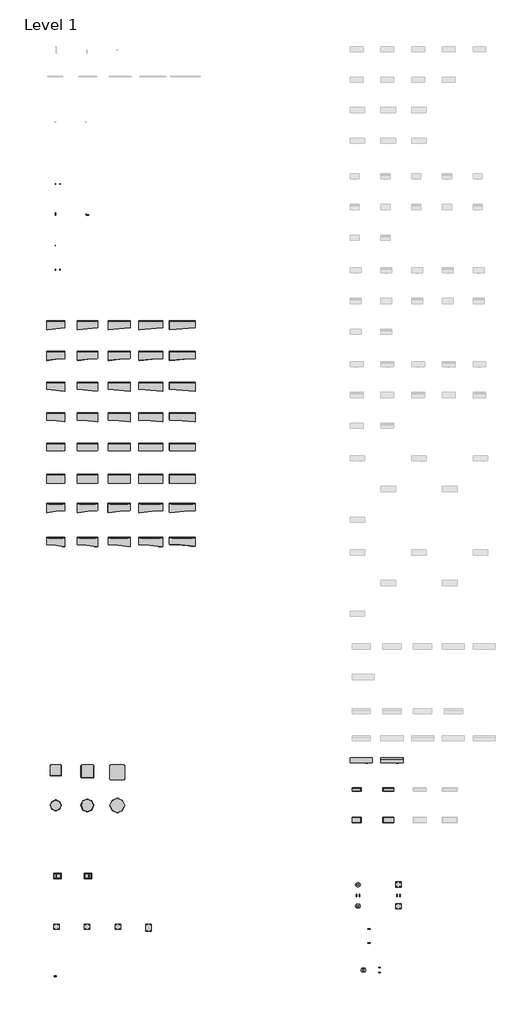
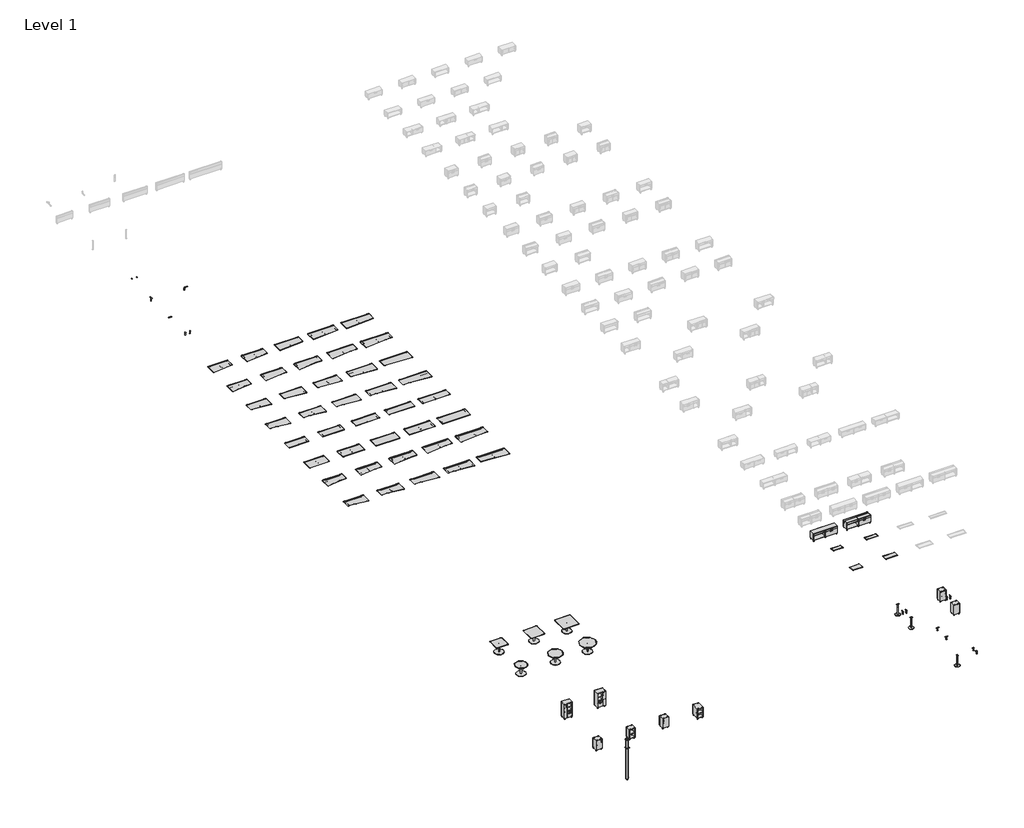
# One storey, part 1 of 4: 68 furniture elements.
"""IFC4 building model written with IfcOpenShell, lengths in millimetres."""

from ifc_helpers import new_model, si_unit, origin, place, context, project, spatial, transform, mapped, element, save
from components import furniture_f726599f, furniture_24_x_30_x_60_dbd468c7, furniture_24_x_30_x_60_5f838831, furniture_24_x_30_x_60_with_cutout_557fada7, furniture_24_x_30_x_66_e956ec1d, furniture_24_x_30_x_66_a961efd6, furniture_24_x_30_x_66_with_cutout_4fd02ba2, furniture_24_x_30_x_72_d45b0edc, furniture_24_x_30_x_72_6be4c41c, furniture_24_x_30_x_72_with_cutout_818d5d7e, furniture_24_x_30_x_78_ebe7881e, furniture_24_x_30_x_78_c33e6ba3, furniture_24_x_30_x_78_with_cutout_9f279deb, furniture_24_x_30_x_84_a90a2840, furniture_24_x_30_x_84_331a1a21, furniture_24_x_30_x_84_with_cutout_db138713, furniture_24_x_60_ce3a3083, furniture_24_x_66_22182448, furniture_24_x_72_0e6367d8, furniture_24_x_78_e408c419, furniture_24_x_84_4c3feb66, furniture_30_x_24_x_60_3097d2cc, furniture_30_x_24_x_60_703c3a2f, furniture_30_x_24_x_60_with_cutout_45655707, furniture_30_x_24_x_66_3c1ac4ce, furniture_30_x_24_x_66_db10c3b4, furniture_30_x_24_x_66_with_cutout_a6fa4a9a, furniture_30_x_24_x_72_815ae0e8, furniture_30_x_24_x_72_7be18f01, furniture_30_x_24_x_72_with_cutout_2aaaa9fd, furniture_30_x_24_x_78_2d4ab718, furniture_30_x_24_x_78_94c20a30, furniture_30_x_24_x_78_with_cutout_a530a37b, furniture_30_x_24_x_84_1e226a4b, furniture_30_x_24_x_84_b591fa1f, furniture_30_x_24_x_84_with_cutout_60a7b00e, furniture_30_x_60_1927a441, furniture_30_x_66_994145db, furniture_30_x_72_10772063, furniture_30_x_78_0295c53c, furniture_30_x_84_f73faef1, furniture_72w_open_drawer_6f4cbbca, furniture_72w_open_drawer_connect_zone_87427762, back_to_back_application_7fdfe21f, bracket_3e07cef7, kit_029fefce, kit_63d35be1, kit_with_high_pedestal_83c3bd6a, kit_with_high_pedestal_ce1e90b8, kit_with_standard_column_b97b8489, plate_62663991, spacer_47bae51f, steelcase_c_scape_high_ped_17d_left_hinged_door_7c8358b6, steelcase_c_scape_high_ped_17d_open_59ce3d5d, steelcase_c_scape_high_ped_17d_right_hinged_door_e19e001e, steelcase_c_scape_high_ped_24d_open_cd475395, steelcase_c_scape_low_storage_cushion_top_9c90e3af, steelcase_c_scape_low_storage_cushion_top_89db92b3, steelcase_c_scape_low_storage_cushion_top_33cc21bd, steelcase_c_scape_low_storage_cushion_top_557f994b, steelcase_c_scape_power_and_data_utility_pole_utility_pole_6348a0d5, steelcase_c_scape_shared_table_round_36_x_36_5c1397c3, steelcase_c_scape_shared_table_round_42_x_42_61b79fea, steelcase_c_scape_shared_table_round_48_x_48_2e53c025, steelcase_c_scape_shared_table_square_36_x_36_7a23c519, steelcase_c_scape_shared_table_square_42_x_42_29b82b3a, steelcase_c_scape_shared_table_square_48_x_48_f934af08, steelcase_c_scape_tower_left_5157d071, steelcase_c_scape_tower_right_c0f2066f

model = new_model("IFC4")

# Units and contexts
model_context = context("Model", 3, world=origin())
ifc_project = project(units=[si_unit("LENGTHUNIT", "METRE", prefix="MILLI")], contexts=[model_context])

# Site, building, storey
site = spatial("IfcSite", under=ifc_project)
building = spatial("IfcBuilding", under=site)
storey = spatial("IfcBuildingStorey", under=building, Name="Level 1", Elevation=0.0)

# Furniture
placement = place(None, origin())
furniture_shape = furniture_f726599f(model_context)
element("IfcFurniture", 1, ObjectType="Steelcase - C Scape - Desking Support - Desk Tether Bracket and Shared Support Plate : Daisy Chain Application", at=placement, inside=storey, context=model_context, shape_type="MappedRepresentation", body=[
    mapped(furniture_shape, transform((-11061.278051, -3655.7299366, 0.0), x_axis=(1.0, 0.0, 0.0), y_axis=(0.0, 1.0, 0.0), z_axis=(0.0, 0.0, 1.0))),
])
furniture_24_x_30_x_60_shape = furniture_24_x_30_x_60_dbd468c7(model_context)
element("IfcFurniture", 2, ObjectType="Steelcase - C Scape - Desking - Right Hand Tapered : 24 x 30 x 60", at=placement, inside=storey, context=model_context, shape_type="MappedRepresentation", body=[
    mapped(furniture_24_x_30_x_60_shape, transform((-14314.065551, -17524.1299366, 0.0), x_axis=(1.0, 0.0, 0.0), y_axis=(0.0, 1.0, 0.0), z_axis=(0.0, 0.0, 1.0))),
])
furniture_24_x_30_x_60_2_shape = furniture_24_x_30_x_60_5f838831(model_context)
element("IfcFurniture", 3, ObjectType="Steelcase - C Scape - Desking - Right Hand Transition : 24 x 30 x 60", at=placement, inside=storey, context=model_context, shape_type="MappedRepresentation", body=[
    mapped(furniture_24_x_30_x_60_2_shape, transform((-14314.065551, -20064.1299366, 0.0), x_axis=(1.0, 0.0, 0.0), y_axis=(0.0, 1.0, 0.0), z_axis=(0.0, 0.0, 1.0))),
])
furniture_24_x_30_x_60_with_cutout_shape = furniture_24_x_30_x_60_with_cutout_557fada7(model_context)
element("IfcFurniture", 4, ObjectType="Steelcase - C Scape - Desking - Right Hand Transition - Non Sliding : 24 x 30 x 60 - With Cutout", at=placement, inside=storey, context=model_context, shape_type="MappedRepresentation", body=[
    mapped(furniture_24_x_30_x_60_with_cutout_shape, transform((-14315.653051, -30376.5299366, 0.0), x_axis=(1.0, 0.0, 0.0), y_axis=(0.0, 1.0, 0.0), z_axis=(0.0, 0.0, 1.0))),
])
furniture_24_x_30_x_66_shape = furniture_24_x_30_x_66_e956ec1d(model_context)
element("IfcFurniture", 5, ObjectType="Steelcase - C Scape - Desking - Right Hand Tapered : 24 x 30 x 66", at=placement, inside=storey, context=model_context, shape_type="MappedRepresentation", body=[
    mapped(furniture_24_x_30_x_66_shape, transform((-11774.065551, -17524.1299366, 0.0), x_axis=(1.0, 0.0, 0.0), y_axis=(0.0, 1.0, 0.0), z_axis=(0.0, 0.0, 1.0))),
])
furniture_24_x_30_x_66_2_shape = furniture_24_x_30_x_66_a961efd6(model_context)
element("IfcFurniture", 6, ObjectType="Steelcase - C Scape - Desking - Right Hand Transition : 24 x 30 x 66", at=placement, inside=storey, context=model_context, shape_type="MappedRepresentation", body=[
    mapped(furniture_24_x_30_x_66_2_shape, transform((-11774.065551, -20064.1299366, 0.0), x_axis=(1.0, 0.0, 0.0), y_axis=(0.0, 1.0, 0.0), z_axis=(0.0, 0.0, 1.0))),
])
furniture_24_x_30_x_66_with_cutout_shape = furniture_24_x_30_x_66_with_cutout_4fd02ba2(model_context)
element("IfcFurniture", 7, ObjectType="Steelcase - C Scape - Desking - Right Hand Transition - Non Sliding : 24 x 30 x 66 - With Cutout", at=placement, inside=storey, context=model_context, shape_type="MappedRepresentation", body=[
    mapped(furniture_24_x_30_x_66_with_cutout_shape, transform((-11772.478051, -30376.5299366, 0.0), x_axis=(1.0, 0.0, 0.0), y_axis=(0.0, 1.0, 0.0), z_axis=(0.0, 0.0, 1.0))),
])
furniture_24_x_30_x_72_shape = furniture_24_x_30_x_72_d45b0edc(model_context)
element("IfcFurniture", 8, ObjectType="Steelcase - C Scape - Desking - Right Hand Tapered : 24 x 30 x 72", at=placement, inside=storey, context=model_context, shape_type="MappedRepresentation", body=[
    mapped(furniture_24_x_30_x_72_shape, transform((-9234.065551, -17524.1299366, 0.0), x_axis=(1.0, 0.0, 0.0), y_axis=(0.0, 1.0, 0.0), z_axis=(0.0, 0.0, 1.0))),
])
furniture_24_x_30_x_72_2_shape = furniture_24_x_30_x_72_6be4c41c(model_context)
element("IfcFurniture", 9, ObjectType="Steelcase - C Scape - Desking - Right Hand Transition : 24 x 30 x 72", at=placement, inside=storey, context=model_context, shape_type="MappedRepresentation", body=[
    mapped(furniture_24_x_30_x_72_2_shape, transform((-9234.065551, -20064.1299366, 0.0), x_axis=(1.0, 0.0, 0.0), y_axis=(0.0, 1.0, 0.0), z_axis=(0.0, 0.0, 1.0))),
])
furniture_24_x_30_x_72_with_cutout_shape = furniture_24_x_30_x_72_with_cutout_818d5d7e(model_context)
element("IfcFurniture", 10, ObjectType="Steelcase - C Scape - Desking - Right Hand Transition - Non Sliding : 24 x 30 x 72 - With Cutout", at=placement, inside=storey, context=model_context, shape_type="MappedRepresentation", body=[
    mapped(furniture_24_x_30_x_72_with_cutout_shape, transform((-9232.478051, -30376.5299366, 0.0), x_axis=(1.0, 0.0, 0.0), y_axis=(0.0, 1.0, 0.0), z_axis=(0.0, 0.0, 1.0))),
])
furniture_24_x_30_x_78_shape = furniture_24_x_30_x_78_ebe7881e(model_context)
element("IfcFurniture", 11, ObjectType="Steelcase - C Scape - Desking - Right Hand Tapered : 24 x 30 x 78", at=placement, inside=storey, context=model_context, shape_type="MappedRepresentation", body=[
    mapped(furniture_24_x_30_x_78_shape, transform((-6694.065551, -17524.1299366, 0.0), x_axis=(1.0, 0.0, 0.0), y_axis=(0.0, 1.0, 0.0), z_axis=(0.0, 0.0, 1.0))),
])
furniture_24_x_30_x_78_2_shape = furniture_24_x_30_x_78_c33e6ba3(model_context)
element("IfcFurniture", 12, ObjectType="Steelcase - C Scape - Desking - Right Hand Transition : 24 x 30 x 78", at=placement, inside=storey, context=model_context, shape_type="MappedRepresentation", body=[
    mapped(furniture_24_x_30_x_78_2_shape, transform((-6694.065551, -20064.1299366, 0.0), x_axis=(1.0, 0.0, 0.0), y_axis=(0.0, 1.0, 0.0), z_axis=(0.0, 0.0, 1.0))),
])
furniture_24_x_30_x_78_with_cutout_shape = furniture_24_x_30_x_78_with_cutout_9f279deb(model_context)
element("IfcFurniture", 13, ObjectType="Steelcase - C Scape - Desking - Right Hand Transition - Non Sliding : 24 x 30 x 78 - With Cutout", at=placement, inside=storey, context=model_context, shape_type="MappedRepresentation", body=[
    mapped(furniture_24_x_30_x_78_with_cutout_shape, transform((-6692.478051, -30376.5299366, 0.0), x_axis=(1.0, 0.0, 0.0), y_axis=(0.0, 1.0, 0.0), z_axis=(0.0, 0.0, 1.0))),
])
furniture_24_x_30_x_84_shape = furniture_24_x_30_x_84_a90a2840(model_context)
element("IfcFurniture", 14, ObjectType="Steelcase - C Scape - Desking - Right Hand Tapered : 24 x 30 x 84", at=placement, inside=storey, context=model_context, shape_type="MappedRepresentation", body=[
    mapped(furniture_24_x_30_x_84_shape, transform((-4154.065551, -17524.1299366, 0.0), x_axis=(1.0, 0.0, 0.0), y_axis=(0.0, 1.0, 0.0), z_axis=(0.0, 0.0, 1.0))),
])
furniture_24_x_30_x_84_2_shape = furniture_24_x_30_x_84_331a1a21(model_context)
element("IfcFurniture", 15, ObjectType="Steelcase - C Scape - Desking - Right Hand Transition : 24 x 30 x 84", at=placement, inside=storey, context=model_context, shape_type="MappedRepresentation", body=[
    mapped(furniture_24_x_30_x_84_2_shape, transform((-4154.065551, -20064.1299366, 0.0), x_axis=(1.0, 0.0, 0.0), y_axis=(0.0, 1.0, 0.0), z_axis=(0.0, 0.0, 1.0))),
])
furniture_24_x_30_x_84_with_cutout_shape = furniture_24_x_30_x_84_with_cutout_db138713(model_context)
element("IfcFurniture", 16, ObjectType="Steelcase - C Scape - Desking - Right Hand Transition - Non Sliding : 24 x 30 x 84 - With Cutout", at=placement, inside=storey, context=model_context, shape_type="MappedRepresentation", body=[
    mapped(furniture_24_x_30_x_84_with_cutout_shape, transform((-4155.653051, -30351.1299366, 0.0), x_axis=(1.0, 0.0, 0.0), y_axis=(0.0, 1.0, 0.0), z_axis=(0.0, 0.0, 1.0))),
])
furniture_24_x_60_shape = furniture_24_x_60_ce3a3083(model_context)
element("IfcFurniture", 17, ObjectType="Steelcase - C Scape - Desking - Straight : 24 x 60", at=placement, inside=storey, context=model_context, shape_type="MappedRepresentation", body=[
    mapped(furniture_24_x_60_shape, transform((-14314.065551, -22604.1299366, 0.0), x_axis=(1.0, 0.0, 0.0), y_axis=(0.0, 1.0, 0.0), z_axis=(0.0, 0.0, 1.0))),
])
furniture_24_x_66_shape = furniture_24_x_66_22182448(model_context)
element("IfcFurniture", 18, ObjectType="Steelcase - C Scape - Desking - Straight : 24 x 66", at=placement, inside=storey, context=model_context, shape_type="MappedRepresentation", body=[
    mapped(furniture_24_x_66_shape, transform((-11774.065551, -22604.1299366, 0.0), x_axis=(1.0, 0.0, 0.0), y_axis=(0.0, 1.0, 0.0), z_axis=(0.0, 0.0, 1.0))),
])
furniture_24_x_72_shape = furniture_24_x_72_0e6367d8(model_context)
element("IfcFurniture", 19, ObjectType="Steelcase - C Scape - Desking - Straight : 24 x 72", at=placement, inside=storey, context=model_context, shape_type="MappedRepresentation", body=[
    mapped(furniture_24_x_72_shape, transform((-9234.065551, -22604.1299366, 0.0), x_axis=(1.0, 0.0, 0.0), y_axis=(0.0, 1.0, 0.0), z_axis=(0.0, 0.0, 1.0))),
])
furniture_24_x_78_shape = furniture_24_x_78_e408c419(model_context)
element("IfcFurniture", 20, ObjectType="Steelcase - C Scape - Desking - Straight : 24 x 78", at=placement, inside=storey, context=model_context, shape_type="MappedRepresentation", body=[
    mapped(furniture_24_x_78_shape, transform((-6694.065551, -22604.1299366, 0.0), x_axis=(1.0, 0.0, 0.0), y_axis=(0.0, 1.0, 0.0), z_axis=(0.0, 0.0, 1.0))),
])
furniture_24_x_84_shape = furniture_24_x_84_4c3feb66(model_context)
element("IfcFurniture", 21, ObjectType="Steelcase - C Scape - Desking - Straight : 24 x 84", at=placement, inside=storey, context=model_context, shape_type="MappedRepresentation", body=[
    mapped(furniture_24_x_84_shape, transform((-4154.065551, -22604.1299366, 0.0), x_axis=(1.0, 0.0, 0.0), y_axis=(0.0, 1.0, 0.0), z_axis=(0.0, 0.0, 1.0))),
])
furniture_30_x_24_x_60_shape = furniture_30_x_24_x_60_3097d2cc(model_context)
element("IfcFurniture", 22, ObjectType="Steelcase - C Scape - Desking - Left Hand Tapered : 30 x 24 x 60", at=placement, inside=storey, context=model_context, shape_type="MappedRepresentation", body=[
    mapped(furniture_30_x_24_x_60_shape, transform((-14314.065551, -12444.1299366, 0.0), x_axis=(1.0, 0.0, 0.0), y_axis=(0.0, 1.0, 0.0), z_axis=(0.0, 0.0, 1.0))),
])
furniture_30_x_24_x_60_2_shape = furniture_30_x_24_x_60_703c3a2f(model_context)
element("IfcFurniture", 23, ObjectType="Steelcase - C Scape - Desking - Left Hand Transition : 30 x 24 x 60", at=placement, inside=storey, context=model_context, shape_type="MappedRepresentation", body=[
    mapped(furniture_30_x_24_x_60_2_shape, transform((-14314.065551, -14984.1299366, 0.0), x_axis=(1.0, 0.0, 0.0), y_axis=(0.0, 1.0, 0.0), z_axis=(0.0, 0.0, 1.0))),
])
furniture_30_x_24_x_60_with_cutout_shape = furniture_30_x_24_x_60_with_cutout_45655707(model_context)
element("IfcFurniture", 24, ObjectType="Steelcase - C Scape - Desking - Left Hand Transition - Non Sliding : 30 x 24 x 60 - With Cutout", at=placement, inside=storey, context=model_context, shape_type="MappedRepresentation", body=[
    mapped(furniture_30_x_24_x_60_with_cutout_shape, transform((-14618.865551, -27557.1299366, 0.0), x_axis=(1.0, 0.0, 0.0), y_axis=(0.0, 1.0, 0.0), z_axis=(0.0, 0.0, 1.0))),
])
furniture_30_x_24_x_66_shape = furniture_30_x_24_x_66_3c1ac4ce(model_context)
element("IfcFurniture", 25, ObjectType="Steelcase - C Scape - Desking - Left Hand Tapered : 30 x 24 x 66", at=placement, inside=storey, context=model_context, shape_type="MappedRepresentation", body=[
    mapped(furniture_30_x_24_x_66_shape, transform((-11774.065551, -12444.1299366, 0.0), x_axis=(1.0, 0.0, 0.0), y_axis=(0.0, 1.0, 0.0), z_axis=(0.0, 0.0, 1.0))),
])
furniture_30_x_24_x_66_2_shape = furniture_30_x_24_x_66_db10c3b4(model_context)
element("IfcFurniture", 26, ObjectType="Steelcase - C Scape - Desking - Left Hand Transition : 30 x 24 x 66", at=placement, inside=storey, context=model_context, shape_type="MappedRepresentation", body=[
    mapped(furniture_30_x_24_x_66_2_shape, transform((-11774.065551, -14984.1299366, 0.0), x_axis=(1.0, 0.0, 0.0), y_axis=(0.0, 1.0, 0.0), z_axis=(0.0, 0.0, 1.0))),
])
furniture_30_x_24_x_66_with_cutout_shape = furniture_30_x_24_x_66_with_cutout_a6fa4a9a(model_context)
element("IfcFurniture", 27, ObjectType="Steelcase - C Scape - Desking - Left Hand Transition - Non Sliding : 30 x 24 x 66 - With Cutout", at=placement, inside=storey, context=model_context, shape_type="MappedRepresentation", body=[
    mapped(furniture_30_x_24_x_66_with_cutout_shape, transform((-11926.465551, -27557.1299366, 0.0), x_axis=(1.0, 0.0, 0.0), y_axis=(0.0, 1.0, 0.0), z_axis=(0.0, 0.0, 1.0))),
])
furniture_30_x_24_x_72_shape = furniture_30_x_24_x_72_815ae0e8(model_context)
element("IfcFurniture", 28, ObjectType="Steelcase - C Scape - Desking - Left Hand Tapered : 30 x 24 x 72", at=placement, inside=storey, context=model_context, shape_type="MappedRepresentation", body=[
    mapped(furniture_30_x_24_x_72_shape, transform((-9234.065551, -12444.1299366, 0.0), x_axis=(1.0, 0.0, 0.0), y_axis=(0.0, 1.0, 0.0), z_axis=(0.0, 0.0, 1.0))),
])
furniture_30_x_24_x_72_2_shape = furniture_30_x_24_x_72_7be18f01(model_context)
element("IfcFurniture", 29, ObjectType="Steelcase - C Scape - Desking - Left Hand Transition : 30 x 24 x 72", at=placement, inside=storey, context=model_context, shape_type="MappedRepresentation", body=[
    mapped(furniture_30_x_24_x_72_2_shape, transform((-9234.065551, -14984.1299366, 0.0), x_axis=(1.0, 0.0, 0.0), y_axis=(0.0, 1.0, 0.0), z_axis=(0.0, 0.0, 1.0))),
])
furniture_30_x_24_x_72_with_cutout_shape = furniture_30_x_24_x_72_with_cutout_2aaaa9fd(model_context)
element("IfcFurniture", 30, ObjectType="Steelcase - C Scape - Desking - Left Hand Transition - Non Sliding : 30 x 24 x 72 - With Cutout", at=placement, inside=storey, context=model_context, shape_type="MappedRepresentation", body=[
    mapped(furniture_30_x_24_x_72_with_cutout_shape, transform((-9234.065551, -27557.1299366, 0.0), x_axis=(1.0, 0.0, 0.0), y_axis=(0.0, 1.0, 0.0), z_axis=(0.0, 0.0, 1.0))),
])
furniture_30_x_24_x_78_shape = furniture_30_x_24_x_78_2d4ab718(model_context)
element("IfcFurniture", 31, ObjectType="Steelcase - C Scape - Desking - Left Hand Tapered : 30 x 24 x 78", at=placement, inside=storey, context=model_context, shape_type="MappedRepresentation", body=[
    mapped(furniture_30_x_24_x_78_shape, transform((-6694.065551, -12444.1299366, 0.0), x_axis=(1.0, 0.0, 0.0), y_axis=(0.0, 1.0, 0.0), z_axis=(0.0, 0.0, 1.0))),
])
furniture_30_x_24_x_78_2_shape = furniture_30_x_24_x_78_94c20a30(model_context)
element("IfcFurniture", 32, ObjectType="Steelcase - C Scape - Desking - Left Hand Transition : 30 x 24 x 78", at=placement, inside=storey, context=model_context, shape_type="MappedRepresentation", body=[
    mapped(furniture_30_x_24_x_78_2_shape, transform((-6694.065551, -14984.1299366, 0.0), x_axis=(1.0, 0.0, 0.0), y_axis=(0.0, 1.0, 0.0), z_axis=(0.0, 0.0, 1.0))),
])
furniture_30_x_24_x_78_with_cutout_shape = furniture_30_x_24_x_78_with_cutout_a530a37b(model_context)
element("IfcFurniture", 33, ObjectType="Steelcase - C Scape - Desking - Left Hand Transition - Non Sliding : 30 x 24 x 78 - With Cutout", at=placement, inside=storey, context=model_context, shape_type="MappedRepresentation", body=[
    mapped(furniture_30_x_24_x_78_with_cutout_shape, transform((-6541.665551, -27557.1299366, 0.0), x_axis=(1.0, 0.0, 0.0), y_axis=(0.0, 1.0, 0.0), z_axis=(0.0, 0.0, 1.0))),
])
furniture_30_x_24_x_84_shape = furniture_30_x_24_x_84_1e226a4b(model_context)
element("IfcFurniture", 34, ObjectType="Steelcase - C Scape - Desking - Left Hand Tapered : 30 x 24 x 84", at=placement, inside=storey, context=model_context, shape_type="MappedRepresentation", body=[
    mapped(furniture_30_x_24_x_84_shape, transform((-4154.065551, -12444.1299366, 0.0), x_axis=(1.0, 0.0, 0.0), y_axis=(0.0, 1.0, 0.0), z_axis=(0.0, 0.0, 1.0))),
])
furniture_30_x_24_x_84_2_shape = furniture_30_x_24_x_84_b591fa1f(model_context)
element("IfcFurniture", 35, ObjectType="Steelcase - C Scape - Desking - Left Hand Transition : 30 x 24 x 84", at=placement, inside=storey, context=model_context, shape_type="MappedRepresentation", body=[
    mapped(furniture_30_x_24_x_84_2_shape, transform((-4154.065551, -14984.1299366, 0.0), x_axis=(1.0, 0.0, 0.0), y_axis=(0.0, 1.0, 0.0), z_axis=(0.0, 0.0, 1.0))),
])
furniture_30_x_24_x_84_with_cutout_shape = furniture_30_x_24_x_84_with_cutout_60a7b00e(model_context)
element("IfcFurniture", 36, ObjectType="Steelcase - C Scape - Desking - Left Hand Transition - Non Sliding : 30 x 24 x 84 - With Cutout", at=placement, inside=storey, context=model_context, shape_type="MappedRepresentation", body=[
    mapped(furniture_30_x_24_x_84_with_cutout_shape, transform((-3849.265551, -27557.1299366, 0.0), x_axis=(1.0, 0.0, 0.0), y_axis=(0.0, 1.0, 0.0), z_axis=(0.0, 0.0, 1.0))),
])
furniture_30_x_60_shape = furniture_30_x_60_1927a441(model_context)
element("IfcFurniture", 37, ObjectType="Steelcase - C Scape - Desking - Straight : 30 x 60", at=placement, inside=storey, context=model_context, shape_type="MappedRepresentation", body=[
    mapped(furniture_30_x_60_shape, transform((-14314.065551, -25144.1299366, 0.0), x_axis=(1.0, 0.0, 0.0), y_axis=(0.0, 1.0, 0.0), z_axis=(0.0, 0.0, 1.0))),
])
furniture_30_x_66_shape = furniture_30_x_66_994145db(model_context)
element("IfcFurniture", 38, ObjectType="Steelcase - C Scape - Desking - Straight : 30 x 66", at=placement, inside=storey, context=model_context, shape_type="MappedRepresentation", body=[
    mapped(furniture_30_x_66_shape, transform((-11774.065551, -25144.1299366, 0.0), x_axis=(1.0, 0.0, 0.0), y_axis=(0.0, 1.0, 0.0), z_axis=(0.0, 0.0, 1.0))),
])
furniture_30_x_72_shape = furniture_30_x_72_10772063(model_context)
element("IfcFurniture", 39, ObjectType="Steelcase - C Scape - Desking - Straight : 30 x 72", at=placement, inside=storey, context=model_context, shape_type="MappedRepresentation", body=[
    mapped(furniture_30_x_72_shape, transform((-9234.065551, -25144.1299366, 0.0), x_axis=(1.0, 0.0, 0.0), y_axis=(0.0, 1.0, 0.0), z_axis=(0.0, 0.0, 1.0))),
])
furniture_30_x_78_shape = furniture_30_x_78_0295c53c(model_context)
element("IfcFurniture", 40, ObjectType="Steelcase - C Scape - Desking - Straight : 30 x 78", at=placement, inside=storey, context=model_context, shape_type="MappedRepresentation", body=[
    mapped(furniture_30_x_78_shape, transform((-6694.065551, -25144.1299366, 0.0), x_axis=(1.0, 0.0, 0.0), y_axis=(0.0, 1.0, 0.0), z_axis=(0.0, 0.0, 1.0))),
])
furniture_30_x_84_shape = furniture_30_x_84_f73faef1(model_context)
element("IfcFurniture", 41, ObjectType="Steelcase - C Scape - Desking - Straight : 30 x 84", at=placement, inside=storey, context=model_context, shape_type="MappedRepresentation", body=[
    mapped(furniture_30_x_84_shape, transform((-4154.065551, -25144.1299366, 0.0), x_axis=(1.0, 0.0, 0.0), y_axis=(0.0, 1.0, 0.0), z_axis=(0.0, 0.0, 1.0))),
])
furniture_72w_open_drawer_shape = furniture_72w_open_drawer_6f4cbbca(model_context)
element("IfcFurniture", 42, ObjectType="Steelcase - C Scape - Low Storage - 1.5 High - 60W and 72W : 72W - Open/Drawer", at=placement, inside=storey, context=model_context, shape_type="MappedRepresentation", body=[
    mapped(furniture_72w_open_drawer_shape, transform((11093.9616348, -48588.3299366, 0.0), x_axis=(1.0, 0.0, 0.0), y_axis=(0.0, 1.0, 0.0), z_axis=(0.0, 0.0, 1.0))),
])
furniture_72w_open_drawer_connect_zone_shape = furniture_72w_open_drawer_connect_zone_87427762(model_context)
element("IfcFurniture", 43, ObjectType="Steelcase - C Scape - Low Storage - 1.5 High - 60W and 72W : 72W - Open/Drawer - Connect Zone", at=placement, inside=storey, context=model_context, shape_type="MappedRepresentation", body=[
    mapped(furniture_72w_open_drawer_connect_zone_shape, transform((13633.9616348, -48588.3299366, 0.0), x_axis=(1.0, 0.0, 0.0), y_axis=(0.0, 1.0, 0.0), z_axis=(0.0, 0.0, 1.0))),
])
back_to_back_application_shape = back_to_back_application_7fdfe21f(model_context)
element("IfcFurniture", 44, ObjectType="Steelcase - C Scape - Desking Support - Desk Tether Bracket and Shared Support Plate : Back to Back Application", at=placement, inside=storey, context=model_context, shape_type="MappedRepresentation", body=[
    mapped(back_to_back_application_shape, transform((-13601.278051, -3655.7299366, 0.0), x_axis=(1.0, 0.0, 0.0), y_axis=(0.0, 1.0, 0.0), z_axis=(0.0, 0.0, 1.0))),
])
bracket_shape = bracket_3e07cef7(model_context)
element("IfcFurniture", 45, ObjectType="Steelcase - C Scape - Desking Support - Desk Tether Bracket : Bracket", at=placement, inside=storey, context=model_context, shape_type="MappedRepresentation", body=[
    mapped(bracket_shape, transform((-13605.5169036, -8183.8921919, 0.0), x_axis=(1.0, 0.0, 0.0), y_axis=(0.0, 1.0, 0.0), z_axis=(0.0, 0.0, 1.0))),
])
kit_shape = kit_029fefce(model_context)
element("IfcFurniture", 46, ObjectType="Steelcase - C Scape - Mid Storage Support - Parallel Application : Kit", at=placement, inside=storey, context=model_context, shape_type="MappedRepresentation", body=[
    mapped(kit_shape, transform((12337.6091348, -64095.7670033, 0.0), x_axis=(0.0, 1.0000000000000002, 0.0), y_axis=(-1.0000000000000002, 0.0, 0.0), z_axis=(0.0, 0.0, 1.0))),
])
kit_2_shape = kit_63d35be1(model_context)
element("IfcFurniture", 47, ObjectType="Steelcase - C Scape - Mid Storage Support - Perpendicular Application : Kit", at=placement, inside=storey, context=model_context, shape_type="MappedRepresentation", body=[
    mapped(kit_2_shape, transform((13252.0091348, -66432.5670033, 0.0), x_axis=(0.0, 1.0000000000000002, 0.0), y_axis=(-1.0000000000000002, 0.0, 0.0), z_axis=(0.0, 0.0, 1.0))),
])
kit_with_high_pedestal_shape = kit_with_high_pedestal_83c3bd6a(model_context)
kit_with_high_pedestal_2_shape = kit_with_high_pedestal_ce1e90b8(model_context)
element("IfcFurniture", 48, ObjectType="Steelcase - C Scape - Mid Storage Support - Mirrored Application : Kit with High Pedestal", at=placement, inside=storey, context=model_context, shape_type="MappedRepresentation", body=[
    mapped(kit_with_high_pedestal_shape, transform((14471.2091348, -59968.5979626, 0.0), x_axis=(1.0, 0.0, 0.0), y_axis=(0.0, 1.0, 0.0), z_axis=(0.0, 0.0, 1.0))),
    mapped(kit_with_high_pedestal_2_shape, transform((14471.2091348, -59968.5979626, 0.0), x_axis=(1.0, 0.0, 0.0), y_axis=(0.0, 1.0, 0.0), z_axis=(0.0, 0.0, 1.0))),
])
kit_with_standard_column_shape = kit_with_standard_column_b97b8489(model_context)
element("IfcFurniture", 49, ObjectType="Steelcase - C Scape - Mid Storage Support - Mirrored Application : Kit with Standard Column", at=placement, inside=storey, context=model_context, shape_type="MappedRepresentation", body=[
    mapped(kit_with_standard_column_shape, transform((11118.4091348, -59968.5979626, 0.0), x_axis=(1.0, 0.0, 0.0), y_axis=(0.0, 1.0, 0.0), z_axis=(0.0, 0.0, 1.0))),
])
plate_shape = plate_62663991(model_context)
element("IfcFurniture", 50, ObjectType="Steelcase - C Scape - Desking Support - Shared Support Plate : Plate", at=placement, inside=storey, context=model_context, shape_type="MappedRepresentation", body=[
    mapped(plate_shape, transform((-13601.278051, -6195.7299366, 0.0), x_axis=(1.0, 0.0, 0.0), y_axis=(0.0, 1.0, 0.0), z_axis=(0.0, 0.0, 1.0))),
])
spacer_shape = spacer_47bae51f(model_context)
element("IfcFurniture", 51, ObjectType="Steelcase - C Scape - Desking Support - Back to Back Spacer : Spacer", at=placement, inside=storey, context=model_context, shape_type="MappedRepresentation", body=[
    mapped(spacer_shape, transform((-13601.278051, -1115.7299366, 0.0), x_axis=(1.0, 0.0, 0.0), y_axis=(0.0, 1.0, 0.0), z_axis=(0.0, 0.0, 1.0))),
])
steelcase_c_scape_high_ped_17d_left_hinged_door_shape = steelcase_c_scape_high_ped_17d_left_hinged_door_7c8358b6(model_context)
element("IfcFurniture", 52, ObjectType="Steelcase - C Scape - High Ped : 17D - Left Hinged Door", at=placement, inside=storey, context=model_context, shape_type="MappedRepresentation", body=[
    mapped(steelcase_c_scape_high_ped_17d_left_hinged_door_shape, transform((-13727.643051, -62339.7530408, 0.0), x_axis=(1.0, 0.0, 0.0), y_axis=(0.0, 1.0, 0.0), z_axis=(0.0, 0.0, 1.0))),
])
steelcase_c_scape_high_ped_17d_open_shape = steelcase_c_scape_high_ped_17d_open_59ce3d5d(model_context)
element("IfcFurniture", 53, ObjectType="Steelcase - C Scape - High Ped : 17D - Open", at=placement, inside=storey, context=model_context, shape_type="MappedRepresentation", body=[
    mapped(steelcase_c_scape_high_ped_17d_open_shape, transform((-11187.643051, -62339.7530408, 0.0), x_axis=(1.0, 0.0, 0.0), y_axis=(0.0, 1.0, 0.0), z_axis=(0.0, 0.0, 1.0))),
])
steelcase_c_scape_high_ped_17d_right_hinged_door_shape = steelcase_c_scape_high_ped_17d_right_hinged_door_e19e001e(model_context)
element("IfcFurniture", 54, ObjectType="Steelcase - C Scape - High Ped : 17D - Right Hinged Door", at=placement, inside=storey, context=model_context, shape_type="MappedRepresentation", body=[
    mapped(steelcase_c_scape_high_ped_17d_right_hinged_door_shape, transform((-8647.643051, -62339.7530408, 0.0), x_axis=(1.0, 0.0, 0.0), y_axis=(0.0, 1.0, 0.0), z_axis=(0.0, 0.0, 1.0))),
])
steelcase_c_scape_high_ped_24d_open_shape = steelcase_c_scape_high_ped_24d_open_cd475395(model_context)
element("IfcFurniture", 55, ObjectType="Steelcase - C Scape - High Ped : 24D - Open", at=placement, inside=storey, context=model_context, shape_type="MappedRepresentation", body=[
    mapped(steelcase_c_scape_high_ped_24d_open_shape, transform((-6107.643051, -62339.7530408, 0.0), x_axis=(1.0, 0.0, 0.0), y_axis=(0.0, 1.0, 0.0), z_axis=(0.0, 0.0, 1.0))),
])
steelcase_c_scape_low_storage_cushion_top_shape = steelcase_c_scape_low_storage_cushion_top_9c90e3af(model_context)
element("IfcFurniture", 56, ObjectType="Steelcase - C Scape - Low Storage - Cushion Top : 12D x 30W", at=placement, inside=storey, context=model_context, shape_type="MappedRepresentation", body=[
    mapped(steelcase_c_scape_low_storage_cushion_top_shape, transform((10940.9266348, -51204.8474366, 0.0), x_axis=(1.0000000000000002, 0.0, 0.0), y_axis=(0.0, 1.0000000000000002, 0.0), z_axis=(0.0, 0.0, 1.0))),
])
steelcase_c_scape_low_storage_cushion_top_2_shape = steelcase_c_scape_low_storage_cushion_top_89db92b3(model_context)
element("IfcFurniture", 57, ObjectType="Steelcase - C Scape - Low Storage - Cushion Top : 12D x 36W", at=placement, inside=storey, context=model_context, shape_type="MappedRepresentation", body=[
    mapped(steelcase_c_scape_low_storage_cushion_top_2_shape, transform((13480.9266348, -51204.8474366, 0.0), x_axis=(1.0000000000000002, 0.0, 0.0), y_axis=(0.0, 1.0000000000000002, 0.0), z_axis=(0.0, 0.0, 1.0))),
])
steelcase_c_scape_low_storage_cushion_top_3_shape = steelcase_c_scape_low_storage_cushion_top_33cc21bd(model_context)
element("IfcFurniture", 58, ObjectType="Steelcase - C Scape - Low Storage - Cushion Top : 17D x 36W", at=placement, inside=storey, context=model_context, shape_type="MappedRepresentation", body=[
    mapped(steelcase_c_scape_low_storage_cushion_top_3_shape, transform((13480.9266348, -53732.1474366, 0.0), x_axis=(1.0000000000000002, 0.0, 0.0), y_axis=(0.0, 1.0000000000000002, 0.0), z_axis=(0.0, 0.0, 1.0))),
])
steelcase_c_scape_low_storage_cushion_top_4_shape = steelcase_c_scape_low_storage_cushion_top_557f994b(model_context)
element("IfcFurniture", 59, ObjectType="Steelcase - C Scape - Low Storage - Cushion Top : 17D x 30W", at=placement, inside=storey, context=model_context, shape_type="MappedRepresentation", body=[
    mapped(steelcase_c_scape_low_storage_cushion_top_4_shape, transform((10940.9266348, -53732.1474366, 0.0), x_axis=(1.0000000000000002, 0.0, 0.0), y_axis=(0.0, 1.0000000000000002, 0.0), z_axis=(0.0, 0.0, 1.0))),
])
steelcase_c_scape_power_and_data_utility_pole_utility_pole_shape = steelcase_c_scape_power_and_data_utility_pole_utility_pole_6348a0d5(model_context)
element("IfcFurniture", 60, ObjectType="Steelcase - C Scape - Power and Data - Utility Pole : Utility Pole", at=placement, inside=storey, context=model_context, shape_type="MappedRepresentation", body=[
    mapped(steelcase_c_scape_power_and_data_utility_pole_utility_pole_shape, transform((-13728.278051, -66534.8479672, 0.0), x_axis=(1.0, 0.0, 0.0), y_axis=(0.0, 1.0, 0.0), z_axis=(0.0, 0.0, 1.0))),
])
steelcase_c_scape_shared_table_round_36_x_36_shape = steelcase_c_scape_shared_table_round_36_x_36_5c1397c3(model_context)
element("IfcFurniture", 61, ObjectType="Steelcase - C Scape - Shared Table - Round : 36 x 36", at=placement, inside=storey, context=model_context, shape_type="MappedRepresentation", body=[
    mapped(steelcase_c_scape_shared_table_round_36_x_36_shape, transform((-14009.2655787, -52077.207296, 0.0), x_axis=(1.0, 0.0, 0.0), y_axis=(0.0, 1.0, 0.0), z_axis=(0.0, 0.0, 1.0))),
])
steelcase_c_scape_shared_table_round_42_x_42_shape = steelcase_c_scape_shared_table_round_42_x_42_61b79fea(model_context)
element("IfcFurniture", 62, ObjectType="Steelcase - C Scape - Shared Table - Round : 42 x 42", at=placement, inside=storey, context=model_context, shape_type="MappedRepresentation", body=[
    mapped(steelcase_c_scape_shared_table_round_42_x_42_shape, transform((-11469.2655787, -52001.007296, 0.0), x_axis=(1.0, 0.0, 0.0), y_axis=(0.0, 1.0, 0.0), z_axis=(0.0, 0.0, 1.0))),
])
steelcase_c_scape_shared_table_round_48_x_48_shape = steelcase_c_scape_shared_table_round_48_x_48_2e53c025(model_context)
element("IfcFurniture", 63, ObjectType="Steelcase - C Scape - Shared Table - Round : 48 x 48", at=placement, inside=storey, context=model_context, shape_type="MappedRepresentation", body=[
    mapped(steelcase_c_scape_shared_table_round_48_x_48_shape, transform((-9081.6655787, -51924.807296, 0.0), x_axis=(1.0, 0.0, 0.0), y_axis=(0.0, 1.0, 0.0), z_axis=(0.0, 0.0, 1.0))),
])
steelcase_c_scape_shared_table_square_36_x_36_shape = steelcase_c_scape_shared_table_square_36_x_36_7a23c519(model_context)
element("IfcFurniture", 64, ObjectType="Steelcase - C Scape - Shared Table - Square : 36 x 36", at=placement, inside=storey, context=model_context, shape_type="MappedRepresentation", body=[
    mapped(steelcase_c_scape_shared_table_square_36_x_36_shape, transform((-14009.2655787, -49181.607296, 0.0), x_axis=(1.0, 0.0, 0.0), y_axis=(0.0, 1.0, 0.0), z_axis=(0.0, 0.0, 1.0))),
])
steelcase_c_scape_shared_table_square_42_x_42_shape = steelcase_c_scape_shared_table_square_42_x_42_29b82b3a(model_context)
element("IfcFurniture", 65, ObjectType="Steelcase - C Scape - Shared Table - Square : 42 x 42", at=placement, inside=storey, context=model_context, shape_type="MappedRepresentation", body=[
    mapped(steelcase_c_scape_shared_table_square_42_x_42_shape, transform((-11469.2655787, -49181.607296, 0.0), x_axis=(1.0, 0.0, 0.0), y_axis=(0.0, 1.0, 0.0), z_axis=(0.0, 0.0, 1.0))),
])
steelcase_c_scape_shared_table_square_48_x_48_shape = steelcase_c_scape_shared_table_square_48_x_48_f934af08(model_context)
element("IfcFurniture", 66, ObjectType="Steelcase - C Scape - Shared Table - Square : 48 x 48", at=placement, inside=storey, context=model_context, shape_type="MappedRepresentation", body=[
    mapped(steelcase_c_scape_shared_table_square_48_x_48_shape, transform((-9081.6655787, -49181.607296, 0.0), x_axis=(1.0, 0.0, 0.0), y_axis=(0.0, 1.0, 0.0), z_axis=(0.0, 0.0, 1.0))),
])
steelcase_c_scape_tower_left_shape = steelcase_c_scape_tower_left_5157d071(model_context)
element("IfcFurniture", 67, ObjectType="Steelcase - C Scape - Tower : Left", at=placement, inside=storey, context=model_context, shape_type="MappedRepresentation", body=[
    mapped(steelcase_c_scape_tower_left_shape, transform((-13727.643051, -58144.6581144, 0.0), x_axis=(1.0, 0.0, 0.0), y_axis=(0.0, 1.0, 0.0), z_axis=(0.0, 0.0, 1.0))),
])
steelcase_c_scape_tower_right_shape = steelcase_c_scape_tower_right_c0f2066f(model_context)
element("IfcFurniture", 68, ObjectType="Steelcase - C Scape - Tower : Right", at=placement, inside=storey, context=model_context, shape_type="MappedRepresentation", body=[
    mapped(steelcase_c_scape_tower_right_shape, transform((-11187.643051, -58144.6581144, 0.0), x_axis=(1.0, 0.0, 0.0), y_axis=(0.0, 1.0, 0.0), z_axis=(0.0, 0.0, 1.0))),
])

save(model, "model.ifc")
